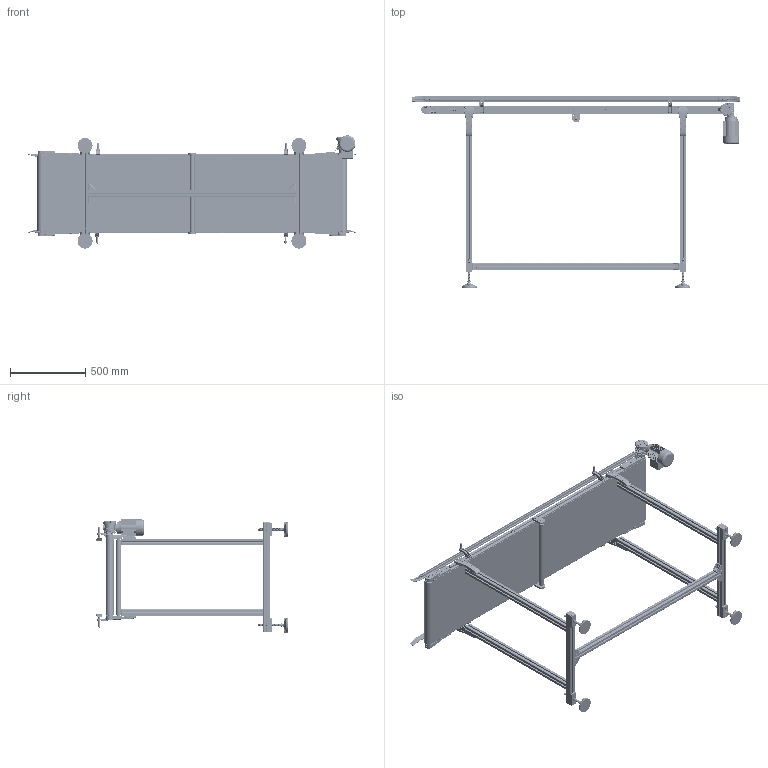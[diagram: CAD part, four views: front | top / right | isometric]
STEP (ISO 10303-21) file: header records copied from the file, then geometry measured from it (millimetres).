
FILE_DESCRIPTION (( 'STEP AP203' ), '1' );
FILE_NAME ('NASTRO_RETTILINEO_TAPPETO.step', '2026-04-21T12:08:17', ( 'Utente Windows' ), ( '' ), 'SwSTEP 2.0', 'SolidWorks 2024', '' );
FILE_SCHEMA (( 'CONFIG_CONTROL_DESIGN' ));
Length unit declared in the file: millimetre
Products named in the file (70): RULLO_50_TRAINO_CINGHIE_30_DX; VITI TCEI UNI 5931_M6x12 UNI 5931; FLANGIA_GAMBA_50; 084.301.000 VITI ALUSIC1_084.301.003; ANGOLARE_43; DADI ESAGONALI NORMALI UNI 5588_M6 UNI 5588; 084.301.000 VITI ALUSIC_084.301.003; 084.405.001; 084.201.012-1; 084.711.006_PER CAVA 8 PERNO ALTO 1; BLOCCO_REGGITAPPETO; 084.807.002_084.807.002; 2010.000.070; 2010.000.069; 084.711.006_L2; VITI TCEI UNI 5931_M4x25 UNI 5931; BLOCCO_RINVIO_50_STANDARD; 084.302.000 DADI ALUSIC 13x13-1_084.302.009; 084.712.005; 084.711.005; VITI TE UNI 5739_M6x16 UNI 5739; BLOCCO_TRAINO_50_STANDARD; TRAVERSA_50_Default<A macchina>; 084.802.017_084.802.017; CH03P_DX; 084.711.010; GAMBE_D50_Default<A macchina>; 084.802.071; 084.402.005; RONDELLE UNI 6592_8.4x17 UNI 6592; 084.803.018; VITI TSEI UNI 5933_M4x12 UNI 5933; GRANI A PUNTA CONICA UNI 5927_M6x16 UNI 5927; LAMIERA_STANDARD; 084.802.061; 084.802.028; BLOCCO_TRAINO_50_STANDARD_30_DX; 084.302.000 DADI ALUSIC 13x13-1_084.302.004; 084.807.003_084.807.003<A macchina>; 084.305.003-1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
Assembly tree (177 placements, depth 4):
  NASTRO_RETTILINEO_TAPPETO
    TAPPETO_STANDARD_CINGHIE
    TELAIO_50_CINGHIE_Default<A macchina>
    LAMIERA_STANDARD
    RULLO_50_TRAINO_CINGHIE_30_DX
    BLOCCO_TRAINO_50_STANDARD_30_DX
      084.807.003_084.807.003<A macchina>
      084.802.017_084.802.017
      084.301.000 VITI ALUSIC_084.301.003  x2
      084.302.000 DADI ALUSIC 13x13-1_084.302.004  x2
      BLOCCO_BRACCIO_CH03P_VF30P
        084.808.012
        084.802.062
        084.802.061
        VITI TE UNI 5739_M6x16 UNI 5739  x4
        084.803.018
        VITI TCEI UNI 5931_M6x12 UNI 5931  x4
      084.802.065_Default<A macchina>
      VITI TCEI UNI 5931_M4x25 UNI 5931  x2
    BLOCCO_TRAINO_50_STANDARD
      084.807.002_084.807.002
      084.802.017_084.802.017
      084.301.000 VITI ALUSIC_084.301.003  x2
      084.302.000 DADI ALUSIC 13x13-1_084.302.004  x2
      VITI TSEI UNI 5933_M4x12 UNI 5933  x4
      084.802.071
      VITI TSEI UNI 5933 INOX_0412UNI5933A2  x2
    RULLO_50_RINVIO_CINGHIE
    BLOCCO_RINVIO_50_STANDARD  x2
      084.807.002_084.807.002
      084.802.017_084.802.017
      084.802.008
      084.301.000 VITI ALUSIC_084.301.003
      084.302.000 DADI ALUSIC 13x13_084.302.004
      VITI TSEI UNI 5933_M4x10 UNI 5933
      084.802.071
    SPONDA_Default<A macchina>  x2
    084.711.006_PER CAVA 8 PERNO ALTO 1  x4
      084.711.006_L1
      084.711.006_L2
      084.711.007
      084.711.005
      084.711.010
      DADI ESAGONALI NORMALI UNI 5588_M6 UNI 5588
    084.712.005  x4
      084.712.005
      DADI ESAGONALI NORMALI UNI 5588_M6 UNI 5588
      GRANI A PUNTA CONICA UNI 5927_M6x16 UNI 5927
    GAMBE_D50_Default<A macchina>  x2
    FLANGIA_GAMBA_50
      084.302.000 DADI ALUSIC 13x13-1_084.302.004  x4
      RONDELLE UNI 6592_8.4x17 UNI 6592  x3
      084.301.000 VITI ALUSIC_084.301.003  x4
      2010.000.068
        2010.000.068_L
        2010.000.069
        2010.000.070
    FLANGIA_GAMBA_50  x3
      084.302.000 DADI ALUSIC 13x13-1_084.302.004
      RONDELLE UNI 6592_8.4x17 UNI 6592
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Bounding box: 2178.88 x 1272.1 x 751.94 mm (x, y, z)
Volume: 23350654.7 mm3; surface area: 15478530.1 mm2
Topology: 323 solids, 331 shells, 17223 faces, 44509 edges, 28152 vertices
Faces by surface type: plane 7294, cylinder 5191, bspline 1850, cone 1499, torus 1175, sphere 214
Entity records: 251797 total; most frequent: CARTESIAN_POINT 85025, ORIENTED_EDGE 34252, DIRECTION 31143, EDGE_CURVE 17126, VERTEX_POINT 10969, AXIS2_PLACEMENT_3D 10840, VECTOR 9463, LINE 9463
